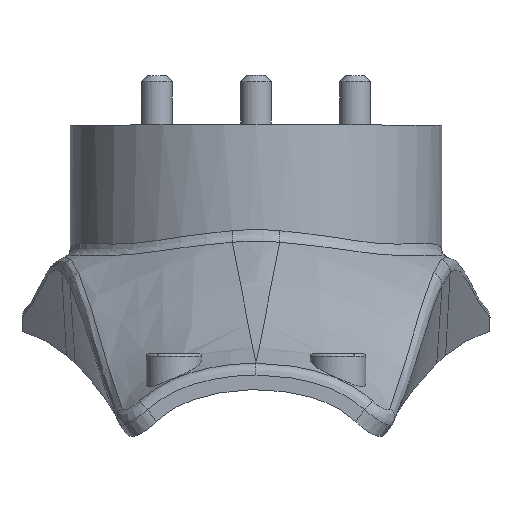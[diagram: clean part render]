
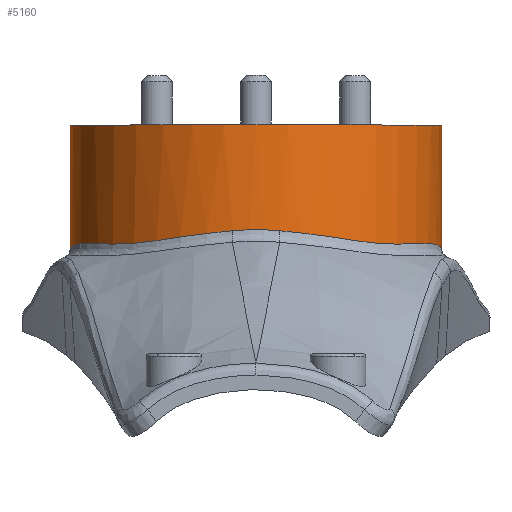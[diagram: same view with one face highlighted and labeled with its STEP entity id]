
A CAD part, top view. The second image highlights one B-rep face of the part: STEP entity #5160.
In plain terms, the highlighted cylindrical face has radius 30 mm (diameter 60 mm), a partial arc.
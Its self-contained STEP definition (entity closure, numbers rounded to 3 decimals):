
#25=CARTESIAN_POINT('',(0.,20.,-5.));
#26=DIRECTION('',(0.,1.,0.));
#27=DIRECTION('',(-1.,0.,0.));
#28=AXIS2_PLACEMENT_3D('',#25,#26,#27);
#223=CARTESIAN_POINT('',(30.,-0.15,-5.));
#228=DIRECTION('',(0.,-1.,0.));
#229=VECTOR('',#228,20.15);
#230=CARTESIAN_POINT('',(30.,20.,-5.));
#231=LINE('',#230,#229);
#882=CARTESIAN_POINT('',(3.831,2.929,24.754));
#883=CARTESIAN_POINT('',(3.013,3.007,24.86));
#884=CARTESIAN_POINT('',(1.35,3.111,25.002));
#885=CARTESIAN_POINT('',(-1.038,3.123,25.018));
#886=CARTESIAN_POINT('',(-2.88,3.019,24.877));
#887=CARTESIAN_POINT('',(-3.831,2.929,24.754));
#892=CARTESIAN_POINT('',(-3.831,2.929,24.754));
#893=CARTESIAN_POINT('',(-4.411,2.874,24.68));
#894=CARTESIAN_POINT('',(-5.574,2.754,24.495));
#895=CARTESIAN_POINT('',(-7.295,2.56,24.118));
#896=CARTESIAN_POINT('',(-9.069,2.351,23.617));
#897=CARTESIAN_POINT('',(-10.874,2.119,22.982));
#898=CARTESIAN_POINT('',(-12.636,1.866,22.23));
#899=CARTESIAN_POINT('',(-14.253,1.618,21.418));
#900=CARTESIAN_POINT('',(-15.818,1.378,20.515));
#901=CARTESIAN_POINT('',(-17.492,1.14,19.403));
#902=CARTESIAN_POINT('',(-19.26,0.936,18.041));
#903=CARTESIAN_POINT('',(-21.088,0.806,16.389));
#904=CARTESIAN_POINT('',(-22.849,0.777,14.495));
#905=CARTESIAN_POINT('',(-24.326,0.812,12.605));
#906=CARTESIAN_POINT('',(-25.504,0.86,10.839));
#907=CARTESIAN_POINT('',(-26.455,0.899,9.185));
#908=CARTESIAN_POINT('',(-27.216,0.918,7.655));
#909=CARTESIAN_POINT('',(-27.836,0.913,6.223));
#910=CARTESIAN_POINT('',(-28.379,0.882,4.772));
#911=CARTESIAN_POINT('',(-28.86,0.815,3.243));
#912=CARTESIAN_POINT('',(-29.262,0.706,1.676));
#913=CARTESIAN_POINT('',(-29.569,0.563,
0.143));
#914=CARTESIAN_POINT('',(-29.798,0.384,
-1.408));
#915=CARTESIAN_POINT('',(-29.956,0.157,
-3.076));
#916=CARTESIAN_POINT('',(-30.,-0.039,
-4.339));
#917=CARTESIAN_POINT('',(-30.,-0.15,-5.));
#922=DIRECTION('',(0.,-1.,0.));
#923=VECTOR('',#922,20.15);
#924=CARTESIAN_POINT('',(-30.,20.,-5.));
#925=LINE('',#924,#923);
#929=CARTESIAN_POINT('',(30.,-0.15,-5.));
#930=CARTESIAN_POINT('',(30.,-0.056,
-4.439));
#931=CARTESIAN_POINT('',(29.968,0.118,-3.336));
#932=CARTESIAN_POINT('',(29.84,0.336,-1.779));
#933=CARTESIAN_POINT('',(29.631,0.524,
-0.221));
#934=CARTESIAN_POINT('',(29.339,0.677,1.328));
#935=CARTESIAN_POINT('',(28.962,0.793,2.878));
#936=CARTESIAN_POINT('',(28.514,0.867,4.368));
#937=CARTESIAN_POINT('',(28.001,0.907,5.805));
#938=CARTESIAN_POINT('',(27.372,0.92,7.32));
#939=CARTESIAN_POINT('',(26.566,0.903,8.982));
#940=CARTESIAN_POINT('',(25.554,0.862,10.767));
#941=CARTESIAN_POINT('',(24.273,0.809,12.685));
#942=CARTESIAN_POINT('',(22.72,0.777,14.645));
#943=CARTESIAN_POINT('',(21.032,0.811,16.437));
#944=CARTESIAN_POINT('',(19.346,0.93,17.963));
#945=CARTESIAN_POINT('',(17.722,1.112,19.232));
#946=CARTESIAN_POINT('',(16.203,1.322,20.269));
#947=CARTESIAN_POINT('',(14.692,1.55,21.177));
#948=CARTESIAN_POINT('',(13.046,1.804,22.037));
#949=CARTESIAN_POINT('',(11.316,2.058,22.805));
#950=CARTESIAN_POINT('',(9.595,2.286,23.443));
#951=CARTESIAN_POINT('',(7.869,2.494,23.969));
#952=CARTESIAN_POINT('',(6.023,2.705,24.412));
#953=CARTESIAN_POINT('',(4.589,2.857,24.657));
#954=CARTESIAN_POINT('',(3.831,2.929,24.754));
#3075=CARTESIAN_POINT('',(30.,20.,-5.));
#3076=CARTESIAN_POINT('',(-30.,20.,-5.));
#3077=VERTEX_POINT('',#3075);
#3078=VERTEX_POINT('',#3076);
#3079=VERTEX_POINT('',#882);
#3080=VERTEX_POINT('',#887);
#3081=VERTEX_POINT('',#917);
#3084=VERTEX_POINT('',#223);
#5145=CARTESIAN_POINT('',(0.,20.,-5.));
#5146=DIRECTION('',(0.,1.,0.));
#5147=DIRECTION('',(1.,0.,0.));
#5148=AXIS2_PLACEMENT_3D('',#5145,#5146,#5147);
#5149=CYLINDRICAL_SURFACE('',#5148,30.);
#5151=ORIENTED_EDGE('',*,*,#5150,.T.);
#5153=ORIENTED_EDGE('',*,*,#5152,.T.);
#5154=ORIENTED_EDGE('',*,*,#3262,.F.);
#5155=ORIENTED_EDGE('',*,*,#3191,.T.);
#5156=ORIENTED_EDGE('',*,*,#3259,.T.);
#5157=ORIENTED_EDGE('',*,*,#5136,.T.);
#5158=EDGE_LOOP('',(#5151,#5153,#5154,#5155,#5156,#5157));
#5159=FACE_OUTER_BOUND('',#5158,.F.);
#29=CIRCLE('',#28,30.);
#888=B_SPLINE_CURVE_WITH_KNOTS('',3,(#882,#883,#884,#885,#886,#887),
.UNSPECIFIED.,.F.,.F.,(4,1,1,4),(0.,0.333,0.667,1.),
.UNSPECIFIED.);
#918=B_SPLINE_CURVE_WITH_KNOTS('',3,(#892,#893,#894,#895,#896,#897,#898,#899,
#900,#901,#902,#903,#904,#905,#906,#907,#908,#909,#910,#911,#912,#913,#914,#915,
#916,#917),.UNSPECIFIED.,.F.,.F.,(4,1,1,1,1,1,1,1,1,1,1,1,1,1,1,1,1,1,1,1,1,1,1,
4),(0.,0.043,0.087,0.13,
0.174,0.217,0.261,0.304,
0.348,0.391,0.435,0.478,
0.522,0.565,0.609,0.652,
0.696,0.739,0.783,0.826,
0.87,0.913,0.957,1.),.UNSPECIFIED.);
#955=B_SPLINE_CURVE_WITH_KNOTS('',3,(#929,#930,#931,#932,#933,#934,#935,#936,
#937,#938,#939,#940,#941,#942,#943,#944,#945,#946,#947,#948,#949,#950,#951,#952,
#953,#954),.UNSPECIFIED.,.F.,.F.,(4,1,1,1,1,1,1,1,1,1,1,1,1,1,1,1,1,1,1,1,1,1,1,
4),(0.,0.043,0.087,0.13,
0.174,0.217,0.261,0.304,
0.348,0.391,0.435,0.478,
0.522,0.565,0.609,0.652,
0.696,0.739,0.783,0.826,
0.87,0.913,0.957,1.),.UNSPECIFIED.);
#3191=EDGE_CURVE('',#3078,#3077,#29,.T.);
#3259=EDGE_CURVE('',#3077,#3084,#231,.T.);
#3262=EDGE_CURVE('',#3078,#3081,#925,.T.);
#5136=EDGE_CURVE('',#3084,#3079,#955,.T.);
#5150=EDGE_CURVE('',#3079,#3080,#888,.T.);
#5152=EDGE_CURVE('',#3080,#3081,#918,.T.);
#5160=ADVANCED_FACE('',(#5159),#5149,.T.);
